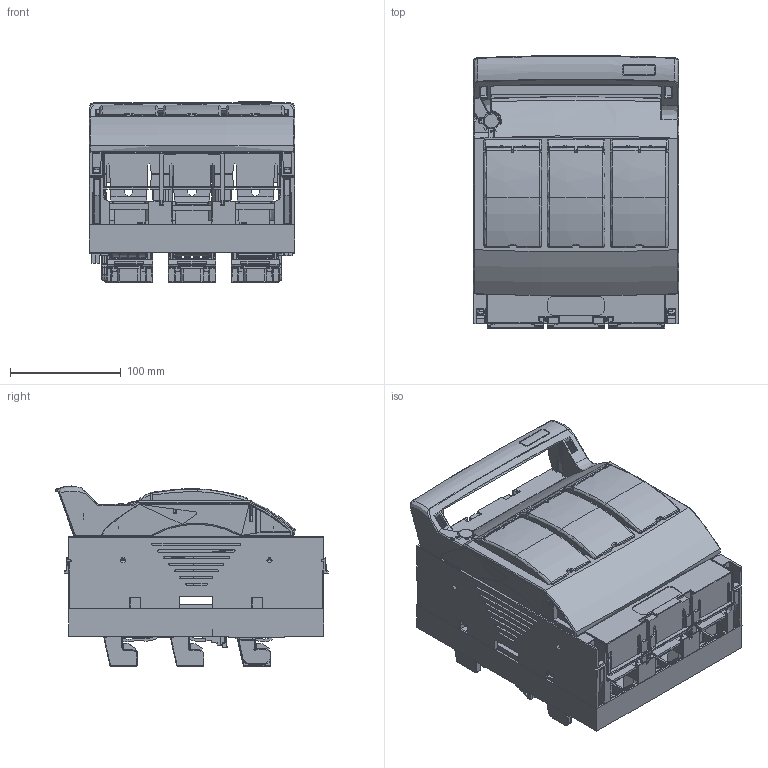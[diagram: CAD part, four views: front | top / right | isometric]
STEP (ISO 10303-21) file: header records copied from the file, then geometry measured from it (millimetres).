
FILE_DESCRIPTION (( 'STEP AP203' ), '1' );
FILE_NAME ('1RST8-3p.STEP', '2014-04-11T06:44:01', ( 'admin' ), ( '' ), 'SwSTEP 2.0', 'SolidWorks 2007', '' );
FILE_SCHEMA (( 'CONFIG_CONTROL_DESIGN' ));
Products named in the file (1): 1RST8-3p
Bounding box: 185 x 245.6 x 162.25 mm (x, y, z)
Surface area: 855521.2 mm2 (no closed solid volume)
Topology: 0 solids, 64 shells, 13073 faces, 35322 edges, 21852 vertices
Faces by surface type: plane 6072, cylinder 4224, bspline 2300, cone 442, torus 35
Entity records: 495816 total; most frequent: CARTESIAN_POINT 194766, ORIENTED_EDGE 69980, DIRECTION 53006, EDGE_CURVE 34994, VERTEX_POINT 21852, VECTOR 21360, LINE 21360, AXIS2_PLACEMENT_3D 15823
